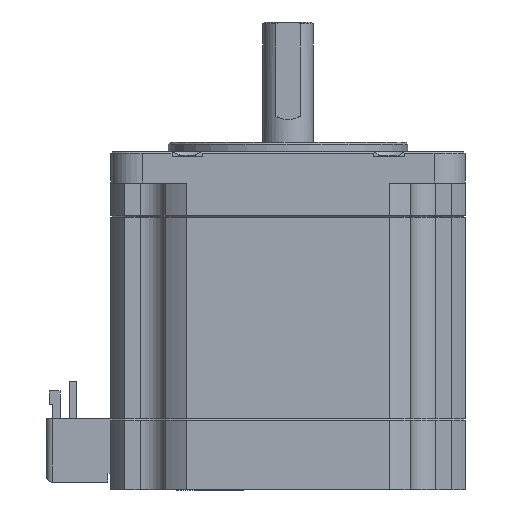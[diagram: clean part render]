
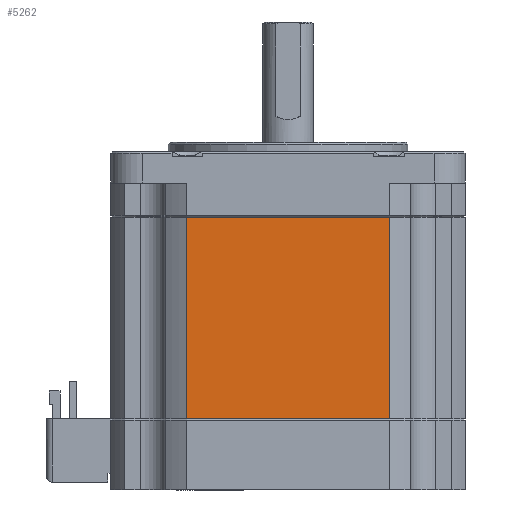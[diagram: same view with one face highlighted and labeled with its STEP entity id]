
A CAD part, left-side view. The second image highlights one B-rep face of the part: STEP entity #5262.
In plain terms, the highlighted planar face has unit normal (-1, 0, 0).
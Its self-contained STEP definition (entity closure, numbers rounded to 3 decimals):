
#225 = DIRECTION ( 'NONE',  ( 0., 0., 1. ) ) ;
#542 = VERTEX_POINT ( 'NONE', #11557 ) ;
#1298 = DIRECTION ( 'NONE',  ( 0., 0., -1. ) ) ;
#1621 = EDGE_CURVE ( 'NONE', #2393, #1936, #15521, .T. ) ;
#1936 = VERTEX_POINT ( 'NONE', #4002 ) ;
#2080 = DIRECTION ( 'NONE',  ( -1., 0., 0. ) ) ;
#2393 = VERTEX_POINT ( 'NONE', #16509 ) ;
#2476 = VECTOR ( 'NONE', #7657, 1000. ) ;
#3812 = LINE ( 'NONE', #13552, #5641 ) ;
#4002 = CARTESIAN_POINT ( 'NONE',  ( -28.2, 16.156, 0. ) ) ;
#5251 = EDGE_CURVE ( 'NONE', #2393, #542, #16074, .T. ) ;
#5262 = ADVANCED_FACE ( 'NONE', ( #13298 ), #6349, .T. ) ;
#5641 = VECTOR ( 'NONE', #14948, 1000. ) ;
#6034 = AXIS2_PLACEMENT_3D ( 'NONE', #9316, #2080, #6442 ) ;
#6349 = PLANE ( 'NONE',  #6034 ) ;
#6442 = DIRECTION ( 'NONE',  ( 0., 0., 1. ) ) ;
#6784 = CARTESIAN_POINT ( 'NONE',  ( -28.2, -16.156, -32.05 ) ) ;
#7657 = DIRECTION ( 'NONE',  ( 0., -1., 0. ) ) ;
#8254 = ORIENTED_EDGE ( 'NONE', *, *, #8693, .F. ) ;
#8693 = EDGE_CURVE ( 'NONE', #17437, #542, #18243, .T. ) ;
#9045 = CARTESIAN_POINT ( 'NONE',  ( -28.2, -16.156, 0. ) ) ;
#9316 = CARTESIAN_POINT ( 'NONE',  ( -28.2, 16.156, -32.05 ) ) ;
#9834 = ORIENTED_EDGE ( 'NONE', *, *, #15021, .T. ) ;
#10159 = CARTESIAN_POINT ( 'NONE',  ( -28.2, 16.156, -32.05 ) ) ;
#11557 = CARTESIAN_POINT ( 'NONE',  ( -28.2, -16.156, -32.05 ) ) ;
#12189 = CARTESIAN_POINT ( 'NONE',  ( -28.2, 0., -32.05 ) ) ;
#13298 = FACE_OUTER_BOUND ( 'NONE', #13364, .T. ) ;
#13364 = EDGE_LOOP ( 'NONE', ( #14791, #8254, #9834, #16594 ) ) ;
#13552 = CARTESIAN_POINT ( 'NONE',  ( -28.2, 16.156, 0. ) ) ;
#14123 = VECTOR ( 'NONE', #1298, 1000. ) ;
#14791 = ORIENTED_EDGE ( 'NONE', *, *, #5251, .T. ) ;
#14948 = DIRECTION ( 'NONE',  ( 0., 1., 0. ) ) ;
#15021 = EDGE_CURVE ( 'NONE', #17437, #1936, #3812, .T. ) ;
#15521 = LINE ( 'NONE', #10159, #16771 ) ;
#16074 = LINE ( 'NONE', #12189, #2476 ) ;
#16509 = CARTESIAN_POINT ( 'NONE',  ( -28.2, 16.156, -32.05 ) ) ;
#16594 = ORIENTED_EDGE ( 'NONE', *, *, #1621, .F. ) ;
#16771 = VECTOR ( 'NONE', #225, 1000. ) ;
#17437 = VERTEX_POINT ( 'NONE', #9045 ) ;
#18243 = LINE ( 'NONE', #6784, #14123 ) ;
